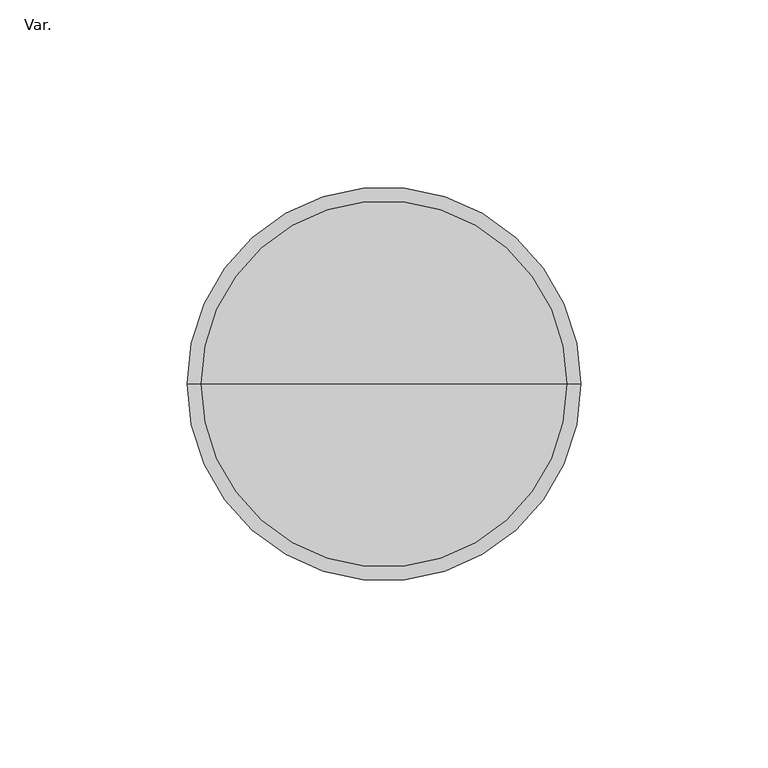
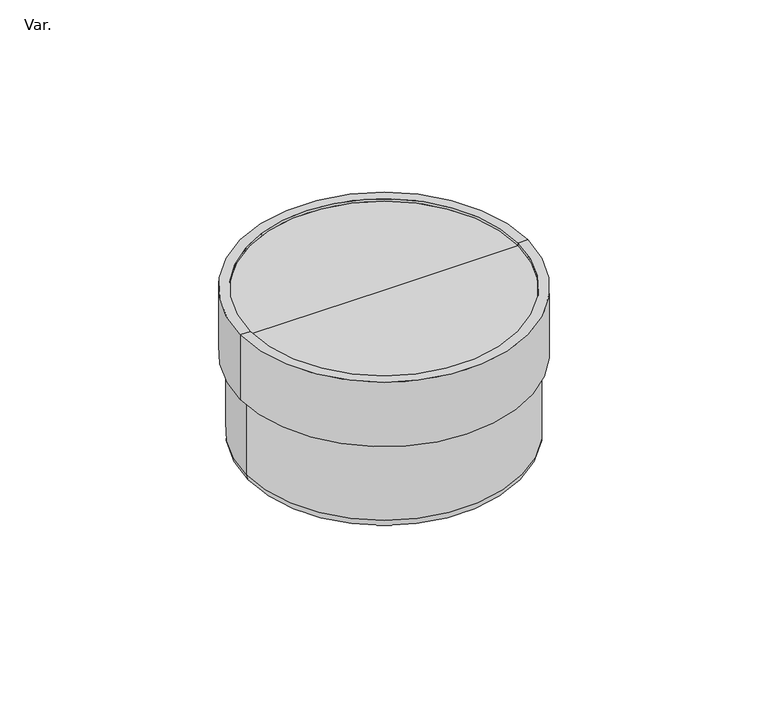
"""IFC4 building model written with IfcOpenShell, lengths in millimetres: pipe fitting geometry, AmancoWavin_ConexõesdeTubos_EsgotoZNãoUsarRaloSifonadoCilindrico : Var.."""

from ifc_helpers import new_model, si_unit, point, frame, origin, place, context, project, spatial, polyline, circle_curve, ellipse_curve, trimmed, source, transform, mapped, element, save
from ifc_brep_helpers import plane_surface, cylinder_surface, revolved_surface, advanced_brep


def var_b1dc0cad(model_context):
    return source(origin(), model_context, "Body", "AdvancedBrep", [
        advanced_brep(
        [(0.0, 0.0, 0.0), (-20.0, 0.0, 0.0), (20.0, 0.0, 0.0), (49.0, 0.0, 40.8), (-49.0, 0.0, 40.8), (0.0, 0.0, 40.8), (49.0, 0.0, 41.8), (-49.0, 0.0, 41.8), (52.6, 0.0, 41.8), (-52.6, 0.0, 41.8), (52.6, 0.0, 16.8), (-52.6, 0.0, 16.8), (50.4, 0.0, 16.8), (-50.4, 0.0, 16.8), (50.4, 0.0, -13.2), (-50.4, 0.0, -13.2), (46.4, 0.0, -17.2), (-46.4, 0.0, -17.2), (22.25, 0.0, -17.2), (-22.25, 0.0, -17.2), (22.25, 0.0, -8.3), (-22.25, 0.0, -8.3), (20.0, 0.0, -8.3), (-20.0, 0.0, -8.3)],
        [
            (0, 1),
            (1, 2, circle_curve(frame((0.0, 0.0, 0.0), z_axis=(0.0, 0.0, -1.0), x_axis=(-1.0, 0.0, 0.0)), 20.0)),
            (2, 0),
            (2, 1, circle_curve(frame((0.0, 0.0, 0.0), z_axis=(0.0, 0.0, -1.0), x_axis=(-1.0, 0.0, 0.0)), 20.0)),
            (3, 4, circle_curve(frame((0.0, 0.0, 40.8), z_axis=(0.0, 0.0, 1.0), x_axis=(-1.0, 0.0, 0.0)), 49.0)),
            (4, 5),
            (5, 3),
            (4, 3, circle_curve(frame((0.0, 0.0, 40.8), z_axis=(0.0, 0.0, 1.0), x_axis=(-1.0, 0.0, 0.0)), 49.0)),
            (6, 7, circle_curve(frame((0.0, 0.0, 41.8), z_axis=(0.0, 0.0, 1.0), x_axis=(-1.0, 0.0, 0.0)), 49.0)),
            (7, 4),
            (3, 6),
            (7, 6, circle_curve(frame((0.0, 0.0, 41.8), z_axis=(0.0, 0.0, 1.0), x_axis=(-1.0, 0.0, 0.0)), 49.0)),
            (8, 9, circle_curve(frame((0.0, 0.0, 41.8), z_axis=(0.0, 0.0, 1.0), x_axis=(-1.0, 0.0, 0.0)), 52.6)),
            (9, 7),
            (6, 8),
            (9, 8, circle_curve(frame((0.0, 0.0, 41.8), z_axis=(0.0, 0.0, 1.0), x_axis=(-1.0, 0.0, 0.0)), 52.6)),
            (10, 11, circle_curve(frame((0.0, 0.0, 16.8), z_axis=(0.0, 0.0, 1.0), x_axis=(-1.0, 0.0, 0.0)), 52.6)),
            (11, 9),
            (8, 10),
            (11, 10, circle_curve(frame((0.0, 0.0, 16.8), z_axis=(0.0, 0.0, 1.0), x_axis=(-1.0, 0.0, 0.0)), 52.6)),
            (12, 13, circle_curve(frame((0.0, 0.0, 16.8), z_axis=(0.0, 0.0, 1.0), x_axis=(-1.0, 0.0, 0.0)), 50.4)),
            (13, 11),
            (10, 12),
            (13, 12, circle_curve(frame((0.0, 0.0, 16.8), z_axis=(0.0, 0.0, 1.0), x_axis=(-1.0, 0.0, 0.0)), 50.4)),
            (14, 15, circle_curve(frame((0.0, 0.0, -13.2), z_axis=(0.0, 0.0, 1.0), x_axis=(-1.0, 0.0, 0.0)), 50.4)),
            (15, 13),
            (12, 14),
            (15, 14, circle_curve(frame((0.0, 0.0, -13.2), z_axis=(0.0, 0.0, 1.0), x_axis=(-1.0, 0.0, 0.0)), 50.4)),
            (16, 17, circle_curve(frame((0.0, 0.0, -17.2), z_axis=(0.0, 0.0, 1.0), x_axis=(-1.0, 0.0, 0.0)), 46.4)),
            (17, 15, circle_curve(frame((-46.4, 0.0, -13.2), z_axis=(0.0, 1.0, 0.0), x_axis=(1.0, 0.0, 0.0)), 4.0)),
            (14, 16, circle_curve(frame((46.4, 0.0, -13.2), z_axis=(0.0, 1.0, 0.0), x_axis=(-1.0, 0.0, 0.0)), 4.0)),
            (17, 16, circle_curve(frame((0.0, 0.0, -17.2), z_axis=(0.0, 0.0, 1.0), x_axis=(-1.0, 0.0, 0.0)), 46.4)),
            (18, 19, circle_curve(frame((0.0, 0.0, -17.2), z_axis=(0.0, 0.0, 1.0), x_axis=(-1.0, 0.0, 0.0)), 22.25)),
            (19, 17),
            (16, 18),
            (19, 18, circle_curve(frame((0.0, 0.0, -17.2), z_axis=(0.0, 0.0, 1.0), x_axis=(-1.0, 0.0, 0.0)), 22.25)),
            (20, 21, circle_curve(frame((0.0, 0.0, -8.3), z_axis=(0.0, 0.0, 1.0), x_axis=(-1.0, 0.0, 0.0)), 22.25)),
            (21, 19),
            (18, 20),
            (21, 20, circle_curve(frame((0.0, 0.0, -8.3), z_axis=(0.0, 0.0, 1.0), x_axis=(-1.0, 0.0, 0.0)), 22.25)),
            (22, 23, circle_curve(frame((0.0, 0.0, -8.3), z_axis=(0.0, 0.0, 1.0), x_axis=(-1.0, 0.0, 0.0)), 20.0)),
            (23, 21),
            (20, 22),
            (23, 22, circle_curve(frame((0.0, 0.0, -8.3), z_axis=(0.0, 0.0, 1.0), x_axis=(-1.0, 0.0, 0.0)), 20.0)),
            (1, 23),
            (22, 2),
        ],
        [
            plane_surface(frame((0.0, 0.0, 0.0), z_axis=(0.0, 0.0, -1.0), x_axis=(-1.0, 0.0, 0.0))),
            plane_surface(frame((0.0, 0.0, 40.8), z_axis=(0.0, 0.0, 1.0), x_axis=(-1.0, 0.0, 0.0))),
            revolved_surface(polyline([(-49.0, 0.0, 40.80000000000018), (-49.0, 0.0, 41.80000000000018)]), (0.0, 0.0, 2207.3150031), (0.0, 0.0, -1.0)),
            plane_surface(frame((0.0, 0.0, 41.8), z_axis=(0.0, 0.0, 1.0), x_axis=(-1.0, 0.0, 0.0))),
            cylinder_surface(frame((0.0, 0.0, 2207.3150031), z_axis=(0.0, 0.0, -1.0), x_axis=(-1.0, 0.0, 0.0)), 52.6),
            plane_surface(frame((0.0, 0.0, 16.8), z_axis=(0.0, 0.0, -1.0), x_axis=(-1.0, 0.0, 0.0))),
            cylinder_surface(frame((0.0, 0.0, 2207.3150031), z_axis=(0.0, 0.0, -1.0), x_axis=(-1.0, 0.0, 0.0)), 50.4),
            revolved_surface(trimmed(ellipse_curve(frame((-46.4, 0.0, -13.2), z_axis=(0.0, -1.0, 0.0), x_axis=(1.0, 0.0, 0.0)), 4.0, 4.0), [point((-50.4, 0.0, -13.2))], [point((-46.4, 0.0, -17.2))], True, "CARTESIAN"), (0.0, 0.0, 2207.3150031), (0.0, 0.0, -1.0)),
            plane_surface(frame((0.0, 0.0, -17.2), z_axis=(0.0, 0.0, -1.0), x_axis=(-1.0, 0.0, 0.0))),
            revolved_surface(polyline([(-22.25, 0.0, -17.199999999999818), (-22.25, 0.0, -8.300000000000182)]), (0.0, 0.0, 2207.3150031), (0.0, 0.0, -1.0)),
            plane_surface(frame((0.0, 0.0, -8.3), z_axis=(0.0, 0.0, -1.0), x_axis=(-1.0, 0.0, 0.0))),
            revolved_surface(polyline([(-20.0, 0.0, -8.300000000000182), (-20.0, 0.0, 0.0)]), (0.0, 0.0, 2207.3150031), (0.0, 0.0, -1.0)),
        ],
        [
            (0, [[1, 2, 3]]),
            (0, [[-3, 4, -1]]),
            (1, [[5, 6, 7]]),
            (1, [[8, -7, -6]]),
            (2, [[9, 10, -5, 11]]),
            (2, [[12, -11, -8, -10]]),
            (3, [[13, 14, -9, 15]]),
            (3, [[16, -15, -12, -14]]),
            (4, [[17, 18, -13, 19]]),
            (4, [[20, -19, -16, -18]]),
            (5, [[21, 22, -17, 23]]),
            (5, [[24, -23, -20, -22]]),
            (6, [[25, 26, -21, 27]]),
            (6, [[28, -27, -24, -26]]),
            (7, [[29, 30, -25, 31]]),
            (7, [[32, -31, -28, -30]]),
            (8, [[33, 34, -29, 35]]),
            (8, [[36, -35, -32, -34]]),
            (9, [[37, 38, -33, 39]]),
            (9, [[40, -39, -36, -38]]),
            (10, [[41, 42, -37, 43]]),
            (10, [[44, -43, -40, -42]]),
            (11, [[-2, 45, -41, 46]]),
            (11, [[-4, -46, -44, -45]]),
        ],
    ),
    ])


if __name__ == "__main__":
    model = new_model("IFC4")
    model_context = context("Model", 3, world=origin())
    ifc_project = project(units=[si_unit("LENGTHUNIT", "METRE", prefix="MILLI")], contexts=[model_context])
    site = spatial("IfcSite", under=ifc_project)
    building = spatial("IfcBuilding", under=site)
    placement = place(None, origin())
    var_shape = var_b1dc0cad(model_context)
    element("IfcPipeFitting", 1, ObjectType="AmancoWavin_ConexõesdeTubos_EsgotoZNãoUsarRaloSifonadoCilindrico : Var.", at=placement, inside=building, context=model_context, shape_type="MappedRepresentation", body=[
        mapped(var_shape, transform((0.0, 0.0, 0.0), x_axis=(1.0, 0.0, 0.0), y_axis=(0.0, 1.0, 0.0), z_axis=(0.0, 0.0, 1.0))),
    ])
    save(model, "model.ifc")
